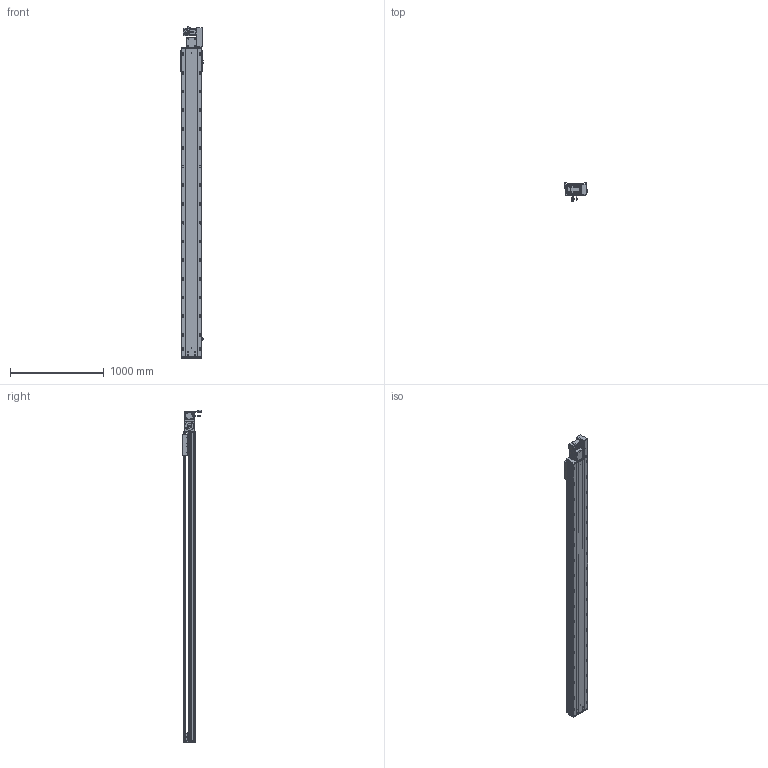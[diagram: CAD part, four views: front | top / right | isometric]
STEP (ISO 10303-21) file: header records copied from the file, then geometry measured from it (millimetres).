
FILE_DESCRIPTION (( 'STEP AP203' ), '1' );
FILE_NAME ('RY220-T-300-RK.SLDASM_2950.step', '2022-07-25T08:25:44', ( '' ), ( '' ), 'SwSTEP 2.0', 'SolidWorks 2016', '' );
FILE_SCHEMA (( 'CONFIG_CONTROL_DESIGN' ));
Length unit declared in the file: millimetre
Products named in the file (14): RY220翋肮祭謫裔啣; RY220翋肮祭謫釱; 滅袉蝶18-15; RY220-T-300-RK.SLDASM_2950; RY220-T-300-奻裔啣_2950; 覜茼ん672; 110A-T-肮祭謫釱傷裔; 怢湛750W_ECMA-CX0807ES; RY220-同步轮副支撑座6304×2; RY220圉猾敕々湍臏賑輸; RY220-T菁釱-300_2950; RY220-T-蛌殏萇儂假蚾啣(750W); RY220-T-湍謫欶(鍼踢); RY220-俋离672覜茼んえ
Assembly tree (18 placements, depth 2):
  RY220-T-300-RK.SLDASM_2950
    RY220-T菁釱-300_2950
    RY220翋肮祭謫釱
    覜茼ん672  x3
    RY220圉猾敕々湍臏賑輸
    RY220-T-300-奻裔啣_2950
    RY220-俋离672覜茼んえ
    滅袉蝶18-15  x3
    RY220翋肮祭謫裔啣  x2
    110A-T-肮祭謫釱傷裔
    怢湛750W_ECMA-CX0807ES
    RY220-T-湍謫欶(鍼踢)
    RY220-T-蛌殏萇儂假蚾啣(750W)
    RY220-同步轮副支撑座6304×2
Bounding box: 238.7 x 198.77 x 3545.24 mm (x, y, z)
Volume: 24880005.2 mm3; surface area: 7693573.9 mm2
Topology: 19 solids, 19 shells, 3020 faces, 8355 edges, 5230 vertices
Faces by surface type: cylinder 1492, plane 1069, cone 377, bspline 56, sphere 16, torus 10
Entity records: 100723 total; most frequent: CARTESIAN_POINT 28401, ORIENTED_EDGE 14938, DIRECTION 14436, EDGE_CURVE 7469, AXIS2_PLACEMENT_3D 5214, VERTEX_POINT 4854, LINE 4008, VECTOR 4008
